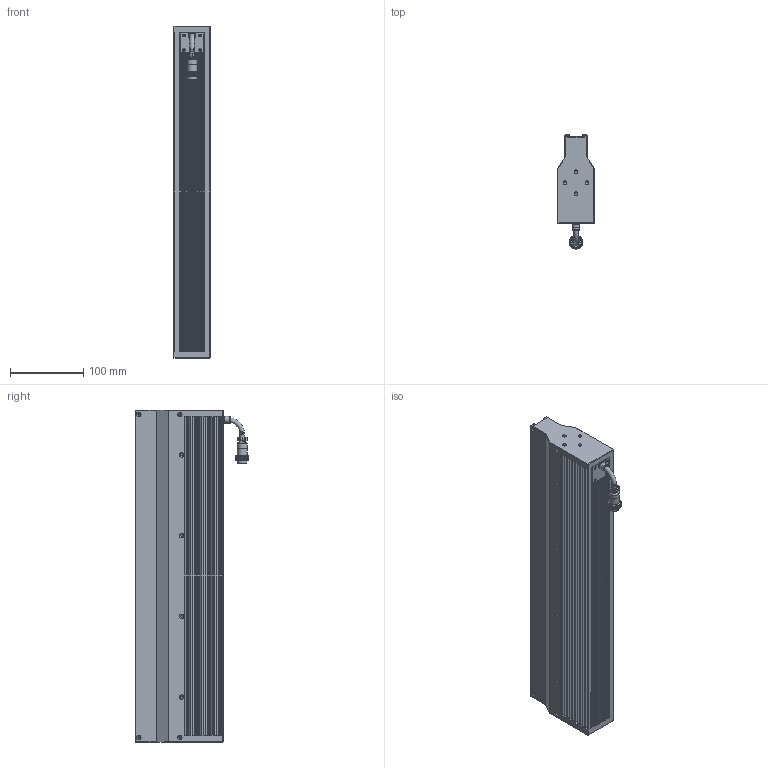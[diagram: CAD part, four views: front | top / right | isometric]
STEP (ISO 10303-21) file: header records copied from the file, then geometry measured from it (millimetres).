
FILE_DESCRIPTION (( 'STEP AP203' ), '1' );
FILE_NAME ('OPT-LSNL452-R-V1.1U尨砩芞.STEP', '2025-02-18T01:12:08', ( '' ), ( '' ), 'SwSTEP 2.0', 'SolidWorks 2016', '' );
FILE_SCHEMA (( 'CONFIG_CONTROL_DESIGN' ));
Products named in the file (1): OPT-LSNL452-R-V1.1U尨砩芞
Bounding box: 50.02 x 155.15 x 452 mm (x, y, z)
Volume: 1649397.8 mm3; surface area: 561461.6 mm2
Topology: 6 solids, 10 shells, 3615 faces, 8229 edges, 4646 vertices
Faces by surface type: bspline 2059, cylinder 760, plane 751, cone 37, torus 8
Full cylindrical faces by diameter (mm): 0.95 x6, 1.1 x2, 1.4 x2, 2 x4, 2.5 x8, 3 x12, 3.4 x16, 3.5 x4, 5 x8, 6.4 x3, 7.5 x1, 8.6 x1, 9.3 x1, 9.8 x1, 10 x1, 13.2 x1, 14 x1, 16.1 x1
Entity records: 126380 total; most frequent: CARTESIAN_POINT 64756, ORIENTED_EDGE 16106, EDGE_CURVE 8053, DIRECTION 6001, B_SPLINE_CURVE_WITH_KNOTS 5587, VERTEX_POINT 4592, EDGE_LOOP 3809, FACE_OUTER_BOUND 3696
